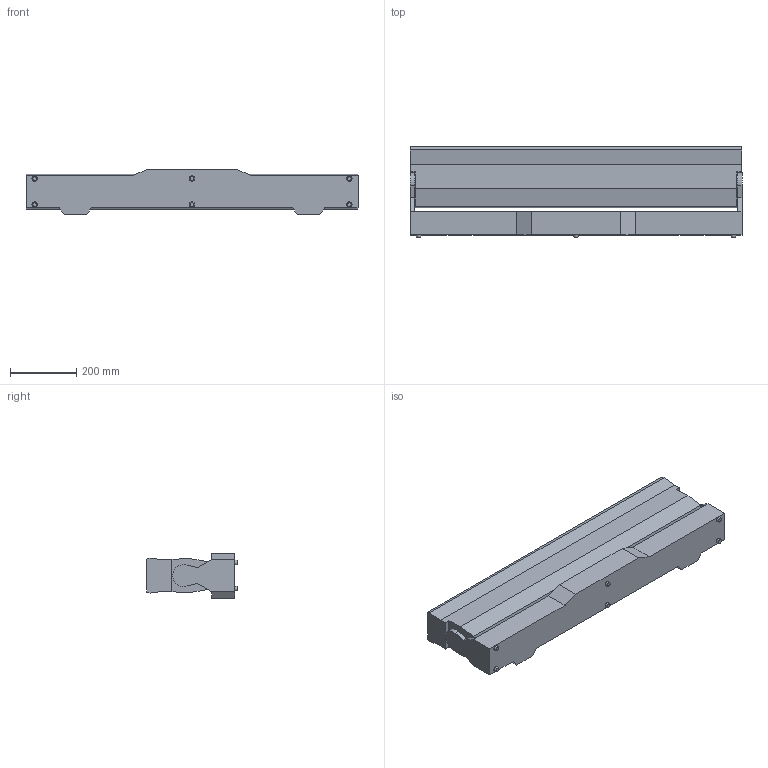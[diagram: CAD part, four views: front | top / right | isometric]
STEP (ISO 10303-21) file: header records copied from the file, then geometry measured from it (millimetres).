
FILE_DESCRIPTION(/* description */ (''),/* implementation_level */ '2;1');
FILE_NAME(/* name */ 'C:\Users\dgooch\Documents\CADENG\PRO\COLORado PXL 16\0\COLORado PXL 16_0.stp',/* time_stamp */ '2022-01-27T13:42:19-05:00',/* author */ ('dgooch'),/* organization */ (''),/* preprocessor_version */ 'ST-DEVELOPER v18.1',/* originating_system */ 'Autodesk Inventor 2022',/* authorisation */ '');
FILE_SCHEMA (('AUTOMOTIVE_DESIGN { 1 0 10303 214 3 1 1 }'));
Length unit declared in the file: millimetre
Products named in the file (3): COLORado PXL 16_0; Base; Head
Assembly tree (2 placements, depth 2):
  COLORado PXL 16_0
    Base
    Head
Bounding box: 1000 x 273 x 135.5 mm (x, y, z)
Volume: 25178801.9 mm3; surface area: 980891 mm2
Topology: 2 solids, 2 shells, 58 faces, 144 edges, 96 vertices
Faces by surface type: plane 49, cone 6, cylinder 3
Entity records: 1831 total; most frequent: CARTESIAN_POINT 303, ORIENTED_EDGE 288, DIRECTION 288, EDGE_CURVE 144, LINE 126, VECTOR 126, VERTEX_POINT 96, AXIS2_PLACEMENT_3D 81
